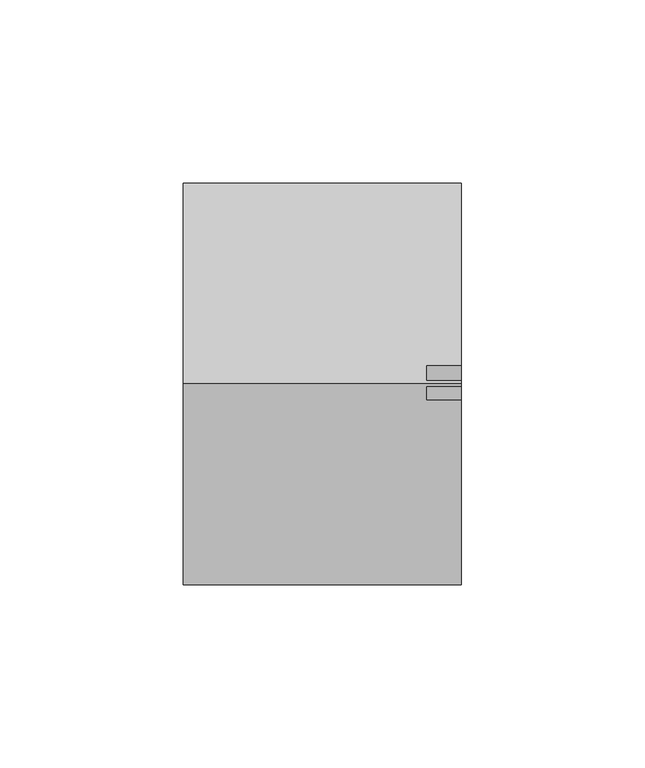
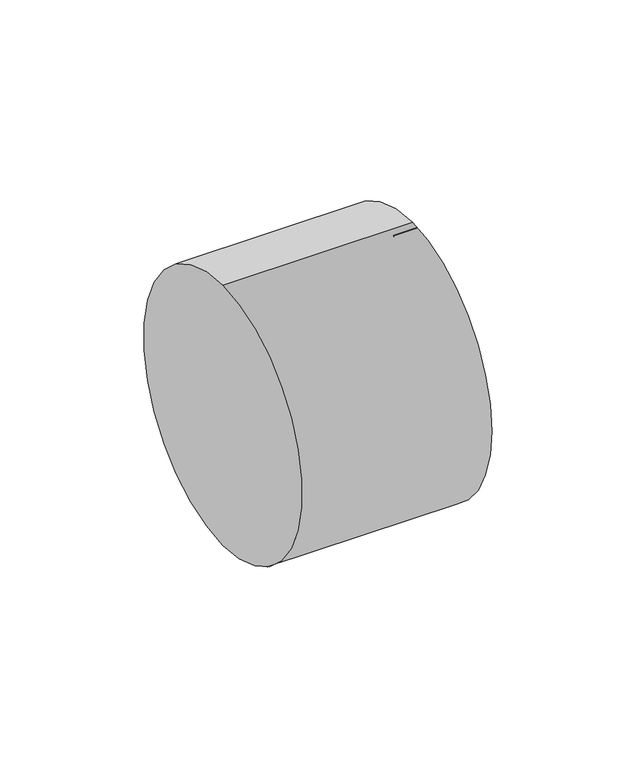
"""IFC4 building model written with IfcOpenShell, lengths in millimetres: pipe fitting geometry, Superdrain HTR-Reducer-short : Superdrain HTR-Reducer-short."""

import ifcopenshell
import ifcopenshell.guid

model = None  # the IFC model being written
_history = None  # IfcOwnerHistory: only IFC2X3 demands one
_inside = {}  # id of a spatial element -> (the spatial element, [elements in it])
_under = {}  # id of a project, library or spatial element -> (it, [spatial elements below it])
_declared = {}  # id of a project -> (the project, [libraries it declares])
_typed = {}  # id of a type object -> (the type object, [elements of that type])
_made_of = {}  # id of a material, layer set ... -> (it, [elements and type objects made of it])


def new_model(schema):
    """Start an empty IFC model of exactly this schema.

    Asked for "IFC4X3", IfcOpenShell would pick the latest addendum, in which some entities
    have other attributes; the version numbers below select the first issue.
    IFC2X3 requires an IfcOwnerHistory on every rooted entity: one is made here for all.
    """
    global model, _history
    if schema == "IFC4X3":
        model = ifcopenshell.file(schema_version=(4, 3, 0, 0))
    else:
        model = ifcopenshell.file(schema=schema)
    _inside.clear()
    _under.clear()
    _declared.clear()
    _typed.clear()
    _made_of.clear()
    _history = None
    if model.schema == "IFC2X3":
        org = make("IfcOrganization", Name="unknown")
        user = make(
            "IfcPersonAndOrganization",
            ThePerson=make("IfcPerson", FamilyName="unknown"),
            TheOrganization=org,
        )
        app = make(
            "IfcApplication",
            ApplicationDeveloper=org,
            Version="unknown",
            ApplicationFullName="unknown",
            ApplicationIdentifier="unknown",
        )
        _history = make(
            "IfcOwnerHistory",
            OwningUser=user,
            OwningApplication=app,
            ChangeAction="ADDED",
            CreationDate=0,
        )
    return model


def make(cls, **values):
    """One entity of the class cls with the attributes given. An attribute that is None is left unset."""
    return model.create_entity(
        cls, **{name: value for name, value in values.items() if value is not None}
    )


def rooted(cls, **values):
    """An entity with a GlobalId (a new one), such as an element, a storey or a relation."""
    return make(cls, GlobalId=ifcopenshell.guid.new(), OwnerHistory=_history, **values)


def si_unit(unit_type, name, prefix=None):
    """IfcSIUnit, for example si_unit("LENGTHUNIT", "METRE", prefix="MILLI")."""
    return make("IfcSIUnit", UnitType=unit_type, Prefix=prefix, Name=name)


def assignment(units):
    """IfcUnitAssignment: the units of a project."""
    return None if units is None else make("IfcUnitAssignment", Units=units)


def point(xyz):
    """IfcCartesianPoint."""
    return None if xyz is None else make("IfcCartesianPoint", Coordinates=xyz)


def direction(xyz):
    """IfcDirection."""
    return None if xyz is None else make("IfcDirection", DirectionRatios=xyz)


def frame(location, z_axis=None, x_axis=None):
    """IfcAxis2Placement3D, a coordinate frame: its origin and axes. An axis left out is left unset."""
    return make(
        "IfcAxis2Placement3D",
        Location=point(location),
        Axis=direction(z_axis),
        RefDirection=direction(x_axis),
    )


def frame_2d(location, x_axis=None):
    """IfcAxis2Placement2D, a coordinate frame in the plane: its origin and x axis."""
    return make(
        "IfcAxis2Placement2D", Location=point(location), RefDirection=direction(x_axis)
    )


def origin():
    """The frame at (0, 0, 0) with its axes left unset."""
    return frame((0.0, 0.0, 0.0))


def place(relative_to, where):
    """IfcLocalPlacement: puts the frame where relative to a parent placement (None: the world)."""
    return make(
        "IfcLocalPlacement", PlacementRelTo=relative_to, RelativePlacement=where
    )


def context(
    kind, dimensions, precision=None, world=None, true_north=None, identifier=None
):
    """IfcGeometricRepresentationContext, for example the 3D "Model" context."""
    return make(
        "IfcGeometricRepresentationContext",
        ContextIdentifier=identifier,
        ContextType=kind,
        CoordinateSpaceDimension=dimensions,
        Precision=precision,
        WorldCoordinateSystem=world,
        TrueNorth=true_north,
    )


def project(units=None, contexts=None):
    """IfcProject with its units and contexts."""
    return rooted(
        "IfcProject",
        Name="project",
        RepresentationContexts=contexts,
        UnitsInContext=assignment(units),
    )


def spatial(cls, under=None, at=None, **own):
    """A site, building, storey or space (cls), placed at a placement, below another one or the project."""
    s = rooted(cls, ObjectPlacement=at, **own)
    if under is not None:
        _under.setdefault(under.id(), (under, []))[1].append(s)
    return s


def polyline(points):
    """IfcPolyline through the points."""
    return make("IfcPolyline", Points=[point(p) for p in points])


def circle_curve(where, radius):
    """IfcCircle in the frame where."""
    return make("IfcCircle", Position=where, Radius=radius)


def trimmed(basis, trim1, trim2, sense, master):
    """IfcTrimmedCurve: the piece of a basis curve between two trims."""
    return make(
        "IfcTrimmedCurve",
        BasisCurve=basis,
        Trim1=trim1,
        Trim2=trim2,
        SenseAgreement=sense,
        MasterRepresentation=master,
    )


def segment(curve, same_sense, transition):
    """IfcCompositeCurveSegment."""
    return make(
        "IfcCompositeCurveSegment",
        Transition=transition,
        SameSense=same_sense,
        ParentCurve=curve,
    )


def composite_curve(segments, self_intersect=None):
    """IfcCompositeCurve: segments joined end to end."""
    return make("IfcCompositeCurve", Segments=segments, SelfIntersect=self_intersect)


def outline(outer, holes=None, kind="AREA"):
    """IfcArbitraryClosedProfileDef: a profile drawn as a closed curve; with holes, ...WithVoids."""
    if holes is None:
        return make("IfcArbitraryClosedProfileDef", ProfileType=kind, OuterCurve=outer)
    return make(
        "IfcArbitraryProfileDefWithVoids",
        ProfileType=kind,
        OuterCurve=outer,
        InnerCurves=holes,
    )


def extrude(swept, where, along, depth):
    """IfcExtrudedAreaSolid: the profile swept, set in the frame where, extruded along a direction by depth."""
    return make(
        "IfcExtrudedAreaSolid",
        SweptArea=swept,
        Position=where,
        ExtrudedDirection=direction(along),
        Depth=depth,
    )


def shape(context_of_items, identifier, shape_type, items):
    """IfcShapeRepresentation: the items that make up one representation, for example the "Body"."""
    return make(
        "IfcShapeRepresentation",
        ContextOfItems=context_of_items,
        RepresentationIdentifier=identifier,
        RepresentationType=shape_type,
        Items=items,
    )


def source(mapping_origin, context_of_items, identifier, shape_type, items):
    """IfcRepresentationMap: a shape defined once, which mapped items show again and again."""
    return make(
        "IfcRepresentationMap",
        MappingOrigin=mapping_origin,
        MappedRepresentation=shape(context_of_items, identifier, shape_type, items),
    )


def transform(
    local_origin,
    x_axis=None,
    y_axis=None,
    z_axis=None,
    scale=None,
    scale2=None,
    scale3=None,
    uniform=True,
):
    """IfcCartesianTransformationOperator3D, or its non-uniform kind. x_axis, y_axis, z_axis: its Axis1, 2, 3."""
    if uniform:
        return make(
            "IfcCartesianTransformationOperator3D",
            Axis1=direction(x_axis),
            Axis2=direction(y_axis),
            LocalOrigin=point(local_origin),
            Scale=scale,
            Axis3=direction(z_axis),
        )
    return make(
        "IfcCartesianTransformationOperator3DnonUniform",
        Axis1=direction(x_axis),
        Axis2=direction(y_axis),
        LocalOrigin=point(local_origin),
        Scale=scale,
        Axis3=direction(z_axis),
        Scale2=scale2,
        Scale3=scale3,
    )


def mapped(mapping_source, mapping_target):
    """IfcMappedItem: shows the shape of a source again, moved by a transform."""
    return make(
        "IfcMappedItem", MappingSource=mapping_source, MappingTarget=mapping_target
    )


def made_of(thing, what):
    """Note that an element or type object is made of a material, layer set ...; save() writes the relation."""
    if what is not None:
        _made_of.setdefault(what.id(), (what, []))[1].append(thing)
    return thing


def element(
    cls,
    number,
    at=None,
    inside=None,
    cuts=None,
    type_object=None,
    material=None,
    context=None,
    identifier="Body",
    shape_type=None,
    held_by="IfcProductDefinitionShape",
    body=None,
    shapes=None,
    **own,
):
    """One element of the class cls, such as IfcWall. Its Tag is "e" and its number.

    at: its placement. inside: the storey or other place that contains it. cuts: it is an
    opening in that element (IfcRelVoidsElement). A single representation is given by context,
    identifier, shape_type and body (its items); several are given by shapes. held_by: the class
    of the entity that holds the representations. save() writes the other relations.
    """
    e = rooted(cls, Tag="e%d" % number, ObjectPlacement=at, **own)
    if body is not None:
        shapes = [shape(context, identifier, shape_type, body)]
    if shapes is not None:
        e.Representation = make(held_by, Representations=shapes)
    if inside is not None:
        _inside.setdefault(inside.id(), (inside, []))[1].append(e)
    if cuts is not None:
        rooted(
            "IfcRelVoidsElement", RelatingBuildingElement=cuts, RelatedOpeningElement=e
        )
    if type_object is not None:
        _typed.setdefault(type_object.id(), (type_object, []))[1].append(e)
    return made_of(e, material)


def aggregate(whole, parts):
    """IfcRelAggregates: a whole, such as a stair, and the parts it consists of."""
    return rooted("IfcRelAggregates", RelatingObject=whole, RelatedObjects=parts)


def save(model, path):
    """Write the relations noted so far, then the file.

    IfcRelAggregates (storeys below a building ...), IfcRelContainedInSpatialStructure (elements
    in a storey), IfcRelDefinesByType, IfcRelAssociatesMaterial and IfcRelDeclares: one each for
    every whole, place, type object, material and project.
    """
    for whole, parts in _under.values():
        aggregate(whole, parts)
    for where, things in _inside.values():
        rooted(
            "IfcRelContainedInSpatialStructure",
            RelatedElements=things,
            RelatingStructure=where,
        )
    for kind, things in _typed.values():
        rooted("IfcRelDefinesByType", RelatedObjects=things, RelatingType=kind)
    for what, things in _made_of.values():
        rooted("IfcRelAssociatesMaterial", RelatedObjects=things, RelatingMaterial=what)
    for by, libraries in _declared.values():
        rooted("IfcRelDeclares", RelatingContext=by, RelatedDefinitions=libraries)
    model.write(path)


def plane_surface(at):
    """IfcPlane: the flat surface through the origin of the frame at, square to its z axis."""
    return make("IfcPlane", Position=at)


def cylinder_surface(at, radius):
    """IfcCylindricalSurface: all points at the distance radius from the z axis of the frame at."""
    return make("IfcCylindricalSurface", Position=at, Radius=radius)


def revolved_surface(curve, axis_point, axis_direction):
    """IfcSurfaceOfRevolution: the curve turned about the line through axis_point along axis_direction."""
    return make(
        "IfcSurfaceOfRevolution",
        SweptCurve=make("IfcArbitraryOpenProfileDef", ProfileType="CURVE", Curve=curve),
        AxisPosition=make("IfcAxis1Placement", Location=point(axis_point), Axis=direction(axis_direction)),
    )


def advanced_brep(points, edges, surfaces, faces):
    """IfcAdvancedBrep: a solid bounded by faces that lie on surfaces and meet in shared edges.

    An edge is (start, end): straight between two places in points (the first is 0);
    or (start, end, curve); or (start, end, curve, False) where it runs against its curve.
    A face is (place in surfaces, loops), or (place, loops, False) where it looks against
    its surface's normal. A loop lists edges by number (the first is 1), with a minus sign
    where the edge is run from its end to its start. The first loop is the outer one.
    """
    corners = [point(p) for p in points]
    vertices = [make("IfcVertexPoint", VertexGeometry=c) for c in corners]
    made = []
    for start, end, *more in edges:
        made.append(
            make(
                "IfcEdgeCurve",
                EdgeStart=vertices[start],
                EdgeEnd=vertices[end],
                EdgeGeometry=more[0] if more else make("IfcPolyline", Points=[corners[start], corners[end]]),
                SameSense=more[1] if len(more) > 1 else True,
            )
        )
    hull = []
    for where, loops, *sense in faces:
        bounds = []
        for j, loop in enumerate(loops):
            ring = [make("IfcOrientedEdge", EdgeElement=made[abs(k) - 1], Orientation=k > 0) for k in loop]
            bounds.append(
                make(
                    "IfcFaceOuterBound" if j == 0 else "IfcFaceBound",
                    Bound=make("IfcEdgeLoop", EdgeList=ring),
                    Orientation=True,
                )
            )
        hull.append(make("IfcAdvancedFace", Bounds=bounds, FaceSurface=surfaces[where], SameSense=sense[0] if sense else True))
    return make("IfcAdvancedBrep", Outer=make("IfcClosedShell", CfsFaces=hull))


def pipe_fitting_d9f46261(model_context):
    return source(origin(), model_context, "Body", "SolidModel", [
        extrude(outline(composite_curve([segment(trimmed(circle_curve(frame_2d((0.0, 27.0)), 27.5625), [point((-27.5625, 27.0))], [point((27.5625, 27.0))], False, "CARTESIAN"), True, "CONTINUOUS"), segment(trimmed(circle_curve(frame_2d((0.0, 27.0)), 27.5625), [point((27.5625, 27.0))], [point((-27.5625, 27.0))], False, "CARTESIAN"), True, "CONTINUOUS")], self_intersect=False), holes=[composite_curve([segment(trimmed(circle_curve(frame_2d((0.0, 27.0)), 25.0), [point((25.0, 27.0))], [point((-25.0, 27.0))], True, "CARTESIAN"), True, "CONTINUOUS"), segment(trimmed(circle_curve(frame_2d((0.0, 27.0)), 25.0), [point((-25.0, 27.0))], [point((25.0, 27.0))], True, "CARTESIAN"), True, "CONTINUOUS")], self_intersect=False)]), frame((73.1, 0.0, 0.0), z_axis=(1.0, 0.0, 0.0), x_axis=(0.0, 1.0, 0.0)), (0.0, 0.0, 1.0), 9.4),
        extrude(outline(composite_curve([segment(trimmed(circle_curve(frame_2d((0.0, 27.0)), 26.25), [point((0.0, 53.25))], [point((0.0, 0.75))], False, "CARTESIAN"), True, "CONTINUOUS"), segment(trimmed(circle_curve(frame_2d((0.0, 27.0)), 26.25), [point((0.0, 0.75))], [point((0.0, 53.25))], False, "CARTESIAN"), True, "CONTINUOUS")], self_intersect=False), holes=[composite_curve([segment(trimmed(circle_curve(frame_2d((0.0, 27.0)), 25.0), [point((25.0, 27.0))], [point((-25.0, 27.0))], True, "CARTESIAN"), True, "CONTINUOUS"), segment(trimmed(circle_curve(frame_2d((0.0, 27.0)), 25.0), [point((-25.0, 27.0))], [point((25.0, 27.0))], True, "CARTESIAN"), True, "CONTINUOUS")], self_intersect=False)]), frame((35.5, 0.0, 0.0), z_axis=(1.0, 0.0, 0.0), x_axis=(0.0, 1.0, 0.0)), (0.0, 0.0, 1.0), 47.0),
        advanced_brep(
        [(6.5, 0.0, 55.0), (6.5, 0.0, -55.0), (82.5, 0.0, 55.0), (82.5, 0.0, -55.0), (82.5, -25.0, 27.0), (82.5, 25.0, 27.0), (35.5, 25.0, 27.0), (35.5, -25.0, 27.0)],
        [
            (0, 1, circle_curve(frame((6.5, 0.0, 0.0), z_axis=(-1.0, 0.0, 0.0), x_axis=(0.0, 0.0, -1.0)), 55.0)),
            (1, 0, circle_curve(frame((6.5, 0.0, 0.0), z_axis=(-1.0, 0.0, 0.0), x_axis=(0.0, 0.0, -1.0)), 55.0)),
            (2, 3, circle_curve(frame((82.5, 0.0, 0.0), z_axis=(1.0, 0.0, 0.0), x_axis=(0.0, 0.0, -1.0)), 55.0)),
            (3, 2, circle_curve(frame((82.5, 0.0, 0.0), z_axis=(1.0, 0.0, 0.0), x_axis=(0.0, 0.0, -1.0)), 55.0)),
            (4, 5, circle_curve(frame((82.5, 0.0, 27.0), z_axis=(-1.0, 0.0, 0.0), x_axis=(0.0, -1.0, 0.0)), 25.0)),
            (5, 4, circle_curve(frame((82.5, 0.0, 27.0), z_axis=(-1.0, 0.0, 0.0), x_axis=(0.0, -1.0, 0.0)), 25.0)),
            (0, 2),
            (3, 1),
            (6, 7, circle_curve(frame((35.5, 0.0, 27.0), z_axis=(1.0, 0.0, 0.0), x_axis=(0.0, -1.0, 0.0)), 25.0)),
            (7, 6, circle_curve(frame((35.5, 0.0, 27.0), z_axis=(1.0, 0.0, 0.0), x_axis=(0.0, -1.0, 0.0)), 25.0)),
            (6, 5),
            (4, 7),
        ],
        [
            plane_surface(frame((6.5, 0.0, 0.0), z_axis=(-1.0, 0.0, 0.0), x_axis=(0.0, 1.0, 0.0))),
            plane_surface(frame((82.5, 0.0, 0.0), z_axis=(1.0, 0.0, 0.0), x_axis=(0.0, 1.0, 0.0))),
            cylinder_surface(frame((6.5, 0.0, 0.0), z_axis=(-1.0, 0.0, 0.0), x_axis=(0.0, 0.0, -1.0)), 55.0),
            plane_surface(frame((35.5, 0.0, 0.0), z_axis=(1.0, 0.0, 0.0), x_axis=(0.0, 0.0, 1.0))),
            revolved_surface(polyline([(82.5, -25.0, 27.0), (35.5, -25.0, 27.0)]), (82.5, 0.0, 27.0), (1.0, 0.0, 0.0)),
        ],
        [
            (0, [[1, 2]]),
            (1, [[3, 4], [5, 6]]),
            (2, [[-1, 7, -4, 8]]),
            (2, [[-2, -8, -3, -7]]),
            (3, [[9, 10]]),
            (4, [[-9, 11, -5, 12]]),
            (4, [[-10, -12, -6, -11]]),
        ],
    ),
    ])


if __name__ == "__main__":
    model = new_model("IFC4")
    model_context = context("Model", 3, world=origin())
    ifc_project = project(units=[si_unit("LENGTHUNIT", "METRE", prefix="MILLI")], contexts=[model_context])
    site = spatial("IfcSite", under=ifc_project)
    building = spatial("IfcBuilding", under=site)
    placement = place(None, origin())
    pipe_fitting_shape = pipe_fitting_d9f46261(model_context)
    element("IfcPipeFitting", 1, ObjectType="Superdrain HTR-Reducer-short : Superdrain HTR-Reducer-short", at=placement, inside=building, context=model_context, shape_type="MappedRepresentation", body=[
        mapped(pipe_fitting_shape, transform((0.0, 0.0, 0.0), x_axis=(1.0, 0.0, 0.0), y_axis=(0.0, 1.0, 0.0), z_axis=(0.0, 0.0, 1.0))),
    ])
    save(model, "model.ifc")
